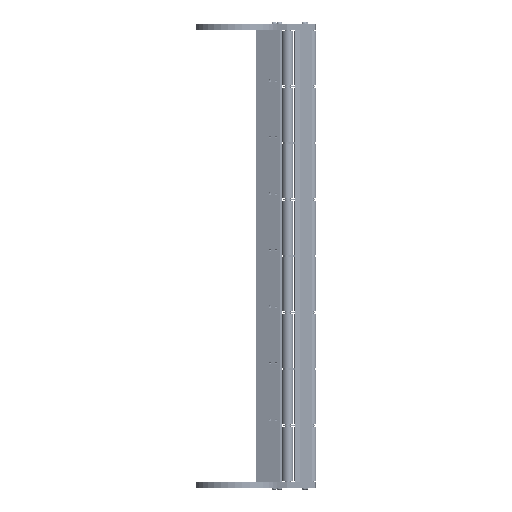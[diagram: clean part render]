
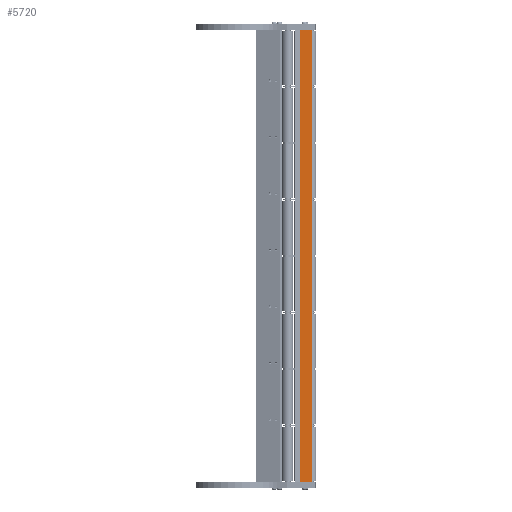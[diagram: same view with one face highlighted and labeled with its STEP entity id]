
A CAD part, front view. The second image highlights one B-rep face of the part: STEP entity #5720.
In plain terms, the highlighted planar face has unit normal (0.768, -0.641, 0) as drawn and (0, 1, 0) by its records, which use the part's own axes.
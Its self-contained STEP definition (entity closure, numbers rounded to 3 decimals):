
#259 = CARTESIAN_POINT ( 'NONE',  ( 25., 13.9, 621. ) ) ;
#278 = ORIENTED_EDGE ( 'NONE', *, *, #6544, .T. ) ;
#344 = EDGE_CURVE ( 'NONE', #15099, #8143, #7963, .T. ) ;
#586 = EDGE_CURVE ( 'NONE', #15099, #7637, #16294, .T. ) ;
#599 = VECTOR ( 'NONE', #12428, 1000. ) ;
#885 = CARTESIAN_POINT ( 'NONE',  ( 25., 13.9, 0. ) ) ;
#1022 = LINE ( 'NONE', #6725, #599 ) ;
#2567 = DIRECTION ( 'NONE',  ( 0., -1., 0. ) ) ;
#2870 = VECTOR ( 'NONE', #13849, 1000. ) ;
#3171 = ORIENTED_EDGE ( 'NONE', *, *, #344, .F. ) ;
#4704 = CARTESIAN_POINT ( 'NONE',  ( 0., 13.9, 621. ) ) ;
#5367 = CARTESIAN_POINT ( 'NONE',  ( 25., 13.9, 621. ) ) ;
#5718 = VERTEX_POINT ( 'NONE', #6789 ) ;
#5720 = ADVANCED_FACE ( 'NONE', ( #10425 ), #10790, .F. ) ;
#6454 = VECTOR ( 'NONE', #8982, 1000. ) ;
#6544 = EDGE_CURVE ( 'NONE', #7637, #5718, #15015, .T. ) ;
#6685 = DIRECTION ( 'NONE',  ( 1., 0., 0. ) ) ;
#6725 = CARTESIAN_POINT ( 'NONE',  ( 0., 13.9, 621. ) ) ;
#6789 = CARTESIAN_POINT ( 'NONE',  ( 0., 13.9, 0. ) ) ;
#7637 = VERTEX_POINT ( 'NONE', #12986 ) ;
#7963 = LINE ( 'NONE', #9556, #2870 ) ;
#8143 = VERTEX_POINT ( 'NONE', #4704 ) ;
#8982 = DIRECTION ( 'NONE',  ( 0., 0., -1. ) ) ;
#9319 = VECTOR ( 'NONE', #17736, 1000. ) ;
#9556 = CARTESIAN_POINT ( 'NONE',  ( 25., 13.9, 621. ) ) ;
#10425 = FACE_OUTER_BOUND ( 'NONE', #15046, .T. ) ;
#10790 = PLANE ( 'NONE',  #12255 ) ;
#12255 = AXIS2_PLACEMENT_3D ( 'NONE', #5367, #2567, #6685 ) ;
#12428 = DIRECTION ( 'NONE',  ( 0., 0., -1. ) ) ;
#12986 = CARTESIAN_POINT ( 'NONE',  ( 25., 13.9, 0. ) ) ;
#13603 = EDGE_CURVE ( 'NONE', #8143, #5718, #1022, .T. ) ;
#13849 = DIRECTION ( 'NONE',  ( -1., 0., 0. ) ) ;
#15015 = LINE ( 'NONE', #885, #9319 ) ;
#15046 = EDGE_LOOP ( 'NONE', ( #278, #17443, #3171, #16804 ) ) ;
#15099 = VERTEX_POINT ( 'NONE', #259 ) ;
#16205 = CARTESIAN_POINT ( 'NONE',  ( 25., 13.9, 621. ) ) ;
#16294 = LINE ( 'NONE', #16205, #6454 ) ;
#16804 = ORIENTED_EDGE ( 'NONE', *, *, #586, .T. ) ;
#17443 = ORIENTED_EDGE ( 'NONE', *, *, #13603, .F. ) ;
#17736 = DIRECTION ( 'NONE',  ( -1., 0., 0. ) ) ;
